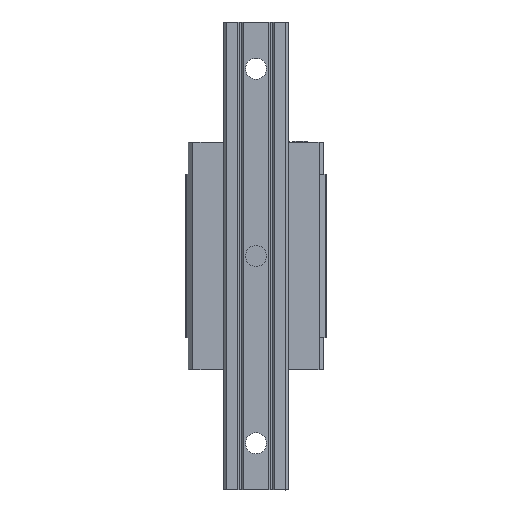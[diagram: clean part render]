
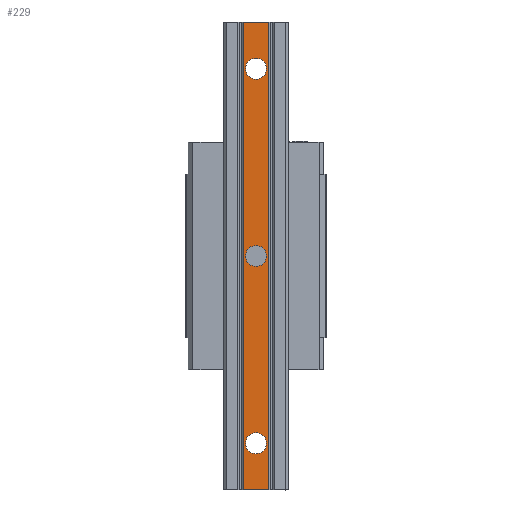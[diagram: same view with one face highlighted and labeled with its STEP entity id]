
A CAD part, front view. The second image highlights one B-rep face of the part: STEP entity #229.
In plain terms, the highlighted planar face has unit normal (0, -1, 0).
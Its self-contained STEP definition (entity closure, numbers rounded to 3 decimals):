
#110=FACE_BOUND('',#956,.T.);
#111=FACE_BOUND('',#957,.T.);
#112=FACE_BOUND('',#958,.T.);
#113=FACE_BOUND('',#959,.T.);
#229=ADVANCED_FACE('',(#110,#111,#112,#113),#487,.T.);
#487=PLANE('',#5370);
#956=EDGE_LOOP('',(#2610,#2611,#2612,#2613));
#957=EDGE_LOOP('',(#2614));
#958=EDGE_LOOP('',(#2615));
#959=EDGE_LOOP('',(#2616));
#1239=LINE('',#7094,#1865);
#1288=LINE('',#7236,#1914);
#1289=LINE('',#7238,#1915);
#1290=LINE('',#7240,#1916);
#1865=VECTOR('',#5715,1.);
#1914=VECTOR('',#5848,1.);
#1915=VECTOR('',#5851,1.);
#1916=VECTOR('',#5852,1.);
#2610=ORIENTED_EDGE('',*,*,#4558,.F.);
#2611=ORIENTED_EDGE('',*,*,#4559,.T.);
#2612=ORIENTED_EDGE('',*,*,#4560,.T.);
#2613=ORIENTED_EDGE('',*,*,#4487,.F.);
#2614=ORIENTED_EDGE('',*,*,#4561,.F.);
#2615=ORIENTED_EDGE('',*,*,#4562,.F.);
#2616=ORIENTED_EDGE('',*,*,#4563,.F.);
#3985=VERTEX_POINT('',#7093);
#3986=VERTEX_POINT('',#7095);
#4036=VERTEX_POINT('',#7235);
#4037=VERTEX_POINT('',#7239);
#4038=VERTEX_POINT('',#7242);
#4039=VERTEX_POINT('',#7244);
#4040=VERTEX_POINT('',#7246);
#4487=EDGE_CURVE('',#3985,#3986,#1239,.T.);
#4558=EDGE_CURVE('',#4036,#3985,#1288,.T.);
#4559=EDGE_CURVE('',#4036,#4037,#1289,.T.);
#4560=EDGE_CURVE('',#4037,#3986,#1290,.T.);
#4561=EDGE_CURVE('',#4038,#4038,#5241,.T.);
#4562=EDGE_CURVE('',#4039,#4039,#5242,.T.);
#4563=EDGE_CURVE('',#4040,#4040,#5243,.T.);
#5241=CIRCLE('',#5367,4.5);
#5242=CIRCLE('',#5368,4.5);
#5243=CIRCLE('',#5369,4.5);
#5367=AXIS2_PLACEMENT_3D('',#7241,#5853,#5854);
#5368=AXIS2_PLACEMENT_3D('',#7243,#5855,#5856);
#5369=AXIS2_PLACEMENT_3D('',#7245,#5857,#5858);
#5370=AXIS2_PLACEMENT_3D('',#7247,#5859,#5860);
#5715=DIRECTION('',(-1.,0.,0.));
#5848=DIRECTION('',(0.,0.,-1.));
#5851=DIRECTION('',(-1.,0.,0.));
#5852=DIRECTION('',(0.,0.,-1.));
#5853=DIRECTION('',(0.,-1.,0.));
#5854=DIRECTION('',(-1.,0.,0.));
#5855=DIRECTION('',(0.,-1.,0.));
#5856=DIRECTION('',(-1.,0.,0.));
#5857=DIRECTION('',(0.,-1.,0.));
#5858=DIRECTION('',(-1.,0.,0.));
#5859=DIRECTION('',(0.,-1.,0.));
#5860=DIRECTION('',(-1.,0.,0.));
#7093=CARTESIAN_POINT('',(5.55,-26.,-100.));
#7094=CARTESIAN_POINT('',(5.55,-26.,-100.));
#7095=CARTESIAN_POINT('',(-5.55,-26.,-100.));
#7235=CARTESIAN_POINT('',(5.55,-26.,100.));
#7236=CARTESIAN_POINT('',(5.55,-26.,100.));
#7238=CARTESIAN_POINT('',(5.55,-26.,100.));
#7239=CARTESIAN_POINT('',(-5.55,-26.,100.));
#7240=CARTESIAN_POINT('',(-5.55,-26.,100.));
#7241=CARTESIAN_POINT('',(0.,-26.,0.));
#7242=CARTESIAN_POINT('',(-4.5,-26.,0.));
#7243=CARTESIAN_POINT('',(0.,-26.,80.));
#7244=CARTESIAN_POINT('',(-4.5,-26.,80.));
#7245=CARTESIAN_POINT('',(0.,-26.,-80.));
#7246=CARTESIAN_POINT('',(-4.5,-26.,-80.));
#7247=CARTESIAN_POINT('',(-6.105,-26.,-110.));
